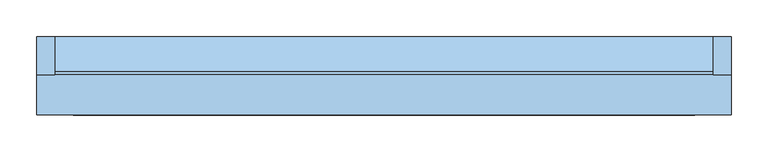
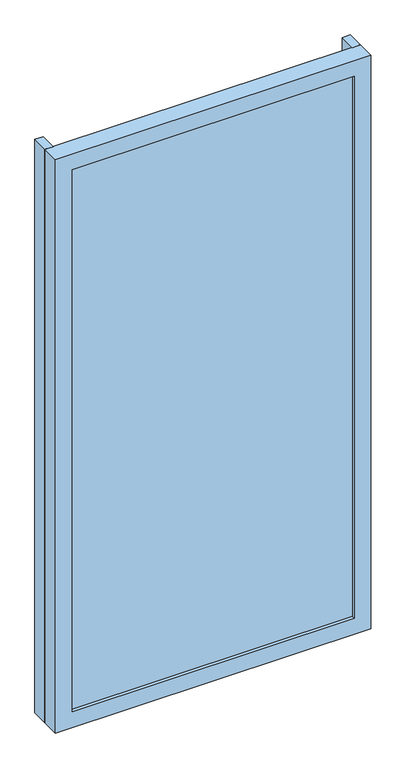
"""IFC4 building model written with IfcOpenShell, lengths in millimetres: window geometry, Fenêtre Fixe rectangle Alu Mur bois sans feuillure : 90*180 OB."""

from ifc_helpers import new_model, si_unit, frame, origin, origin_with_axes, place, context, project, spatial, polyline, outline, extrude, source, transform, mapped, element, save


def window_bc02aec1(model_context):
    return source(origin(), model_context, "Body", "SweptSolid", [
        extrude(outline(polyline([(-450.0, -58.015369), (-450.0, -110.0), (-475.0, -110.0), (-475.0, -58.015369), (-450.0, -58.015369)])), origin_with_axes(), (0.0, 0.0, 1.0), 1825.0),
        extrude(outline(polyline([(450.0, -58.015369), (475.0, -58.015369), (475.0, -110.0), (450.0, -110.0), (450.0, -58.015369)])), origin_with_axes(), (0.0, 0.0, 1.0), 1825.0),
        extrude(outline(polyline([(425.0, -155.0), (-425.0, -155.0), (-425.0, -130.0), (425.0, -130.0), (425.0, -155.0)])), frame((0.0, 0.0, 50.0), z_axis=(0.0, 0.0, 1.0), x_axis=(1.0, 0.0, 0.0)), (0.0, 0.0, 1.0), 1725.0),
        extrude(outline(polyline([(-105.0, 40.0), (-58.015369, 22.8989928), (-58.015369, 2.8989928), (-110.0, 2.8989928), (-110.0, 40.0), (-105.0, 40.0)])), frame((-450.0, 0.0, 0.0), z_axis=(1.0, 0.0, 0.0), x_axis=(0.0, 1.0, 0.0)), (0.0, 0.0, 1.0), 900.0),
        extrude(outline(polyline([(1825.0, 475.0), (1825.0, -475.0), (0.0, -475.0), (0.0, 475.0), (1825.0, 475.0)]), holes=[polyline([(1775.0, 425.0), (50.0, 425.0), (50.0, -425.0), (1775.0, -425.0), (1775.0, 425.0)])]), frame((0.0, -165.0, 0.0), z_axis=(0.0, 1.0, 0.0), x_axis=(0.0, 0.0, 1.0)), (0.0, 0.0, 1.0), 55.0),
    ])


if __name__ == "__main__":
    model = new_model("IFC4")
    model_context = context("Model", 3, world=origin())
    ifc_project = project(units=[si_unit("LENGTHUNIT", "METRE", prefix="MILLI")], contexts=[model_context])
    site = spatial("IfcSite", under=ifc_project)
    building = spatial("IfcBuilding", under=site)
    placement = place(None, origin())
    window_shape = window_bc02aec1(model_context)
    element("IfcWindow", 1, ObjectType="Fenêtre Fixe rectangle Alu Mur bois sans feuillure : 90*180 OB", at=placement, inside=building, context=model_context, shape_type="MappedRepresentation", body=[
        mapped(window_shape, transform((0.0, 0.0, 0.0), x_axis=(1.0, 0.0, 0.0), y_axis=(0.0, 1.0, 0.0), z_axis=(0.0, 0.0, 1.0))),
    ])
    save(model, "model.ifc")
